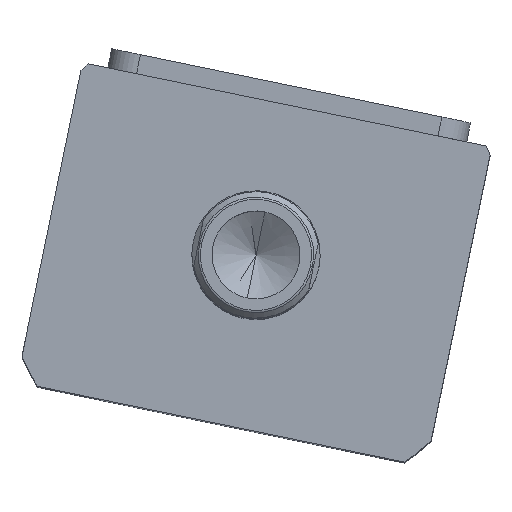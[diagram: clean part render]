
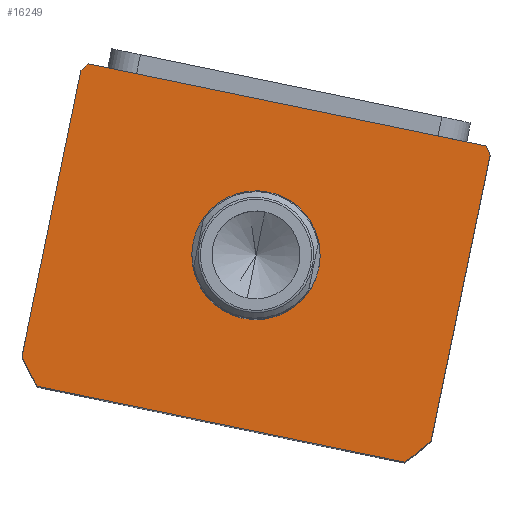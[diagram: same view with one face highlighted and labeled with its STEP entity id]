
A CAD part, top view. The second image highlights one B-rep face of the part: STEP entity #16249.
In plain terms, the highlighted planar face has unit normal (0, 0, 1) as drawn and (0, 0, -1) by its records, which use the part's own axes.
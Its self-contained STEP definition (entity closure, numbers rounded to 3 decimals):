
#77 = VERTEX_POINT ( 'NONE', #18548 ) ;
#795 = AXIS2_PLACEMENT_3D ( 'NONE', #12211, #3586, #13661 ) ;
#1003 = CIRCLE ( 'NONE', #1812, 69.5 ) ;
#1006 = LINE ( 'NONE', #1604, #15935 ) ;
#1083 = CARTESIAN_POINT ( 'NONE',  ( 17.5, -59.497, 0. ) ) ;
#1153 = DIRECTION ( 'NONE',  ( 1., 0., 0. ) ) ;
#1596 = CARTESIAN_POINT ( 'NONE',  ( 0., -59.497, 0. ) ) ;
#1604 = CARTESIAN_POINT ( 'NONE',  ( -57., -17.497, 0. ) ) ;
#1812 = AXIS2_PLACEMENT_3D ( 'NONE', #6239, #16326, #7671 ) ;
#1813 = EDGE_CURVE ( 'NONE', #77, #2468, #9172, .T. ) ;
#1868 = EDGE_CURVE ( 'NONE', #12155, #8592, #1006, .T. ) ;
#2220 = CARTESIAN_POINT ( 'NONE',  ( -51.198, -106.497, 0. ) ) ;
#2468 = VERTEX_POINT ( 'NONE', #17689 ) ;
#3066 = DIRECTION ( 'NONE',  ( 1., 0., 0. ) ) ;
#3075 = CARTESIAN_POINT ( 'NONE',  ( -57., -99.262, 0. ) ) ;
#3145 = DIRECTION ( 'NONE',  ( 0., -1., 0. ) ) ;
#3496 = CARTESIAN_POINT ( 'NONE',  ( 55.374, -17.497, 0. ) ) ;
#3586 = DIRECTION ( 'NONE',  ( 0., 0., 1. ) ) ;
#3911 = EDGE_CURVE ( 'NONE', #13933, #8149, #15469, .T. ) ;
#4210 = CIRCLE ( 'NONE', #5076, 69.5 ) ;
#4235 = PLANE ( 'NONE',  #5755 ) ;
#4623 = ORIENTED_EDGE ( 'NONE', *, *, #6632, .F. ) ;
#5067 = DIRECTION ( 'NONE',  ( 0., 0., 1. ) ) ;
#5076 = AXIS2_PLACEMENT_3D ( 'NONE', #1596, #11684, #3066 ) ;
#5507 = CIRCLE ( 'NONE', #795, 17.5 ) ;
#5662 = CARTESIAN_POINT ( 'NONE',  ( 0., 0., 0. ) ) ;
#5680 = CARTESIAN_POINT ( 'NONE',  ( -17.5, -59.497, 0. ) ) ;
#5755 = AXIS2_PLACEMENT_3D ( 'NONE', #5662, #7100, #17211 ) ;
#5975 = LINE ( 'NONE', #12150, #17031 ) ;
#6137 = ORIENTED_EDGE ( 'NONE', *, *, #17900, .T. ) ;
#6239 = CARTESIAN_POINT ( 'NONE',  ( 0., -59.497, 0. ) ) ;
#6432 = CIRCLE ( 'NONE', #10652, 69.5 ) ;
#6632 = EDGE_CURVE ( 'NONE', #8592, #14401, #4210, .T. ) ;
#7049 = ORIENTED_EDGE ( 'NONE', *, *, #1868, .F. ) ;
#7100 = DIRECTION ( 'NONE',  ( 0., 0., 1. ) ) ;
#7400 = EDGE_CURVE ( 'NONE', #18032, #77, #1003, .T. ) ;
#7671 = DIRECTION ( 'NONE',  ( 1., 0., 0. ) ) ;
#8149 = VERTEX_POINT ( 'NONE', #1083 ) ;
#8475 = DIRECTION ( 'NONE',  ( 0., 0., 1. ) ) ;
#8476 = VERTEX_POINT ( 'NONE', #15803 ) ;
#8592 = VERTEX_POINT ( 'NONE', #3075 ) ;
#8692 = VECTOR ( 'NONE', #18295, 1000. ) ;
#9172 = LINE ( 'NONE', #14275, #8692 ) ;
#9350 = CIRCLE ( 'NONE', #17770, 69.5 ) ;
#9661 = VERTEX_POINT ( 'NONE', #3496 ) ;
#9817 = DIRECTION ( 'NONE',  ( 0., 0., 1. ) ) ;
#10652 = AXIS2_PLACEMENT_3D ( 'NONE', #17139, #8475, #18602 ) ;
#10679 = EDGE_CURVE ( 'NONE', #14401, #18032, #12061, .T. ) ;
#10865 = CARTESIAN_POINT ( 'NONE',  ( -57., -19.732, 0. ) ) ;
#10926 = FACE_OUTER_BOUND ( 'NONE', #12607, .T. ) ;
#11185 = AXIS2_PLACEMENT_3D ( 'NONE', #18489, #9817, #1153 ) ;
#11268 = ORIENTED_EDGE ( 'NONE', *, *, #15795, .F. ) ;
#11530 = EDGE_CURVE ( 'NONE', #2468, #9661, #6432, .T. ) ;
#11632 = ORIENTED_EDGE ( 'NONE', *, *, #1813, .F. ) ;
#11684 = DIRECTION ( 'NONE',  ( 0., 0., 1. ) ) ;
#12061 = LINE ( 'NONE', #14188, #12955 ) ;
#12150 = CARTESIAN_POINT ( 'NONE',  ( -57., -17.497, 0. ) ) ;
#12155 = VERTEX_POINT ( 'NONE', #10865 ) ;
#12211 = CARTESIAN_POINT ( 'NONE',  ( 0., -59.497, 0. ) ) ;
#12500 = CARTESIAN_POINT ( 'NONE',  ( 51.198, -106.497, 0. ) ) ;
#12607 = EDGE_LOOP ( 'NONE', ( #14577, #11632, #18598, #18386, #4623, #7049, #11268, #17943 ) ) ;
#12749 = ORIENTED_EDGE ( 'NONE', *, *, #3911, .T. ) ;
#12955 = VECTOR ( 'NONE', #14127, 1000. ) ;
#13491 = DIRECTION ( 'NONE',  ( -1., 0., 0. ) ) ;
#13661 = DIRECTION ( 'NONE',  ( 1., 0., 0. ) ) ;
#13701 = CARTESIAN_POINT ( 'NONE',  ( 0., -59.497, 0. ) ) ;
#13933 = VERTEX_POINT ( 'NONE', #5680 ) ;
#14127 = DIRECTION ( 'NONE',  ( 1., 0., 0. ) ) ;
#14188 = CARTESIAN_POINT ( 'NONE',  ( -57., -106.497, 0. ) ) ;
#14275 = CARTESIAN_POINT ( 'NONE',  ( 57., -17.497, 0. ) ) ;
#14401 = VERTEX_POINT ( 'NONE', #2220 ) ;
#14577 = ORIENTED_EDGE ( 'NONE', *, *, #11530, .F. ) ;
#15160 = DIRECTION ( 'NONE',  ( 1., 0., 0. ) ) ;
#15469 = CIRCLE ( 'NONE', #11185, 17.5 ) ;
#15795 = EDGE_CURVE ( 'NONE', #8476, #12155, #9350, .T. ) ;
#15803 = CARTESIAN_POINT ( 'NONE',  ( -55.374, -17.497, 0. ) ) ;
#15935 = VECTOR ( 'NONE', #3145, 1000. ) ;
#16249 = ADVANCED_FACE ( 'NONE', ( #18612, #10926 ), #4235, .F. ) ;
#16326 = DIRECTION ( 'NONE',  ( 0., 0., 1. ) ) ;
#17031 = VECTOR ( 'NONE', #13491, 1000. ) ;
#17139 = CARTESIAN_POINT ( 'NONE',  ( 0., -59.497, 0. ) ) ;
#17211 = DIRECTION ( 'NONE',  ( 1., 0., 0. ) ) ;
#17689 = CARTESIAN_POINT ( 'NONE',  ( 57., -19.732, 0. ) ) ;
#17770 = AXIS2_PLACEMENT_3D ( 'NONE', #13701, #5067, #15160 ) ;
#17845 = EDGE_CURVE ( 'NONE', #9661, #8476, #5975, .T. ) ;
#17900 = EDGE_CURVE ( 'NONE', #8149, #13933, #5507, .T. ) ;
#17943 = ORIENTED_EDGE ( 'NONE', *, *, #17845, .F. ) ;
#18032 = VERTEX_POINT ( 'NONE', #12500 ) ;
#18110 = EDGE_LOOP ( 'NONE', ( #6137, #12749 ) ) ;
#18295 = DIRECTION ( 'NONE',  ( 0., 1., 0. ) ) ;
#18386 = ORIENTED_EDGE ( 'NONE', *, *, #10679, .F. ) ;
#18489 = CARTESIAN_POINT ( 'NONE',  ( 0., -59.497, 0. ) ) ;
#18548 = CARTESIAN_POINT ( 'NONE',  ( 57., -99.262, 0. ) ) ;
#18598 = ORIENTED_EDGE ( 'NONE', *, *, #7400, .F. ) ;
#18602 = DIRECTION ( 'NONE',  ( 1., 0., 0. ) ) ;
#18612 = FACE_BOUND ( 'NONE', #18110, .T. ) ;
